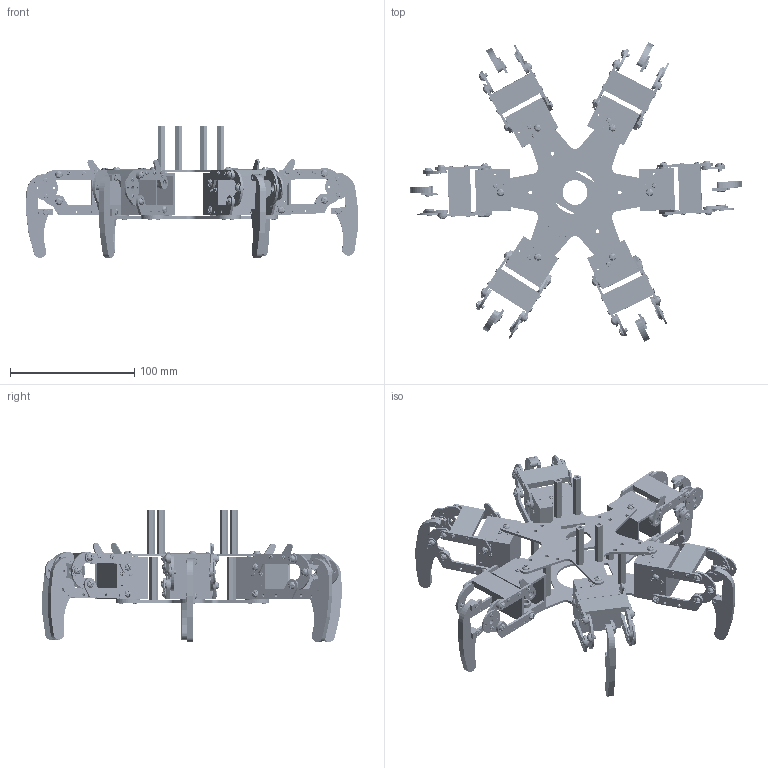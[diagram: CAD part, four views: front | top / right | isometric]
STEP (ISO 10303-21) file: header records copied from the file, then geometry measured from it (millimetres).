
FILE_DESCRIPTION((''),'2;1');
FILE_NAME('C:\Users\wd_chen\Desktop\solidworks\6蜘蛛.stp','2012-03-01T13:03:14',('wd_chen'),(''),'Autodesk Inventor 2009','Autodesk Inventor 2009','');
FILE_SCHEMA(('AUTOMOTIVE_DESIGN { 1 0 10303 214 1 1 1 1 }'));
Length unit declared in the file: millimetre
Products named in the file (23): 6蜘蛛; 4; 組合1; 交直軸蜘蛛; 2; 5; 7; 1; 1-2; f; M3X5; M3X7; M3OO; M2X4; EEEEE; M2; DDDD; GGGG; 組合1_MIR; 交直軸蜘蛛_MIR; 10
Assembly tree (126 placements, depth 3):
  6蜘蛛
    4
    組合1  x3
      交直軸蜘蛛
      2
      2
      5
      7
      1
      1-2
      f
      M3X5
      M3X7
      M3OO
      M2X4
      EEEEE
      M2
      DDDD
      GGGG
    組合1_MIR  x3
      交直軸蜘蛛_MIR
      2
      5
      7
      2
      1
      1-2
      f
      M2X4
      M3OO
      M3X5
      M3X7
      EEEEE
      M2
      DDDD
      GGGG
    4
    7  x6
    10  x8
    M2X4  x12
Bounding box: 267.28 x 241.15 x 106.16 mm (x, y, z)
Volume: 163728.8 mm3; surface area: 188574.2 mm2
Topology: 304 solids, 304 shells, 4496 faces, 11022 edges, 7368 vertices
Faces by surface type: plane 2960, cylinder 1014, torus 384, bspline 138
Full cylindrical faces by diameter (mm): 1.4 x24, 2 x156, 2.2 x60, 2.5 x66, 3 x82, 3.06 x48, 3.5 x84, 3.65 x48, 3.77 x6, 3.78 x42, 4 x12, 4.4 x6, 4.486 x6, 4.55 x6, 5 x12, 5.665 x12, 6.13 x6, 6.15 x6, 6.387 x6, 7 x48, 7.12 x6, 8 x30, 20 x13, 35 x1
Entity records: 14438 total; most frequent: CARTESIAN_POINT 3228, DIRECTION 2289, ORIENTED_EDGE 1806, AXIS2_PLACEMENT_3D 917, EDGE_CURVE 903, EDGE_LOOP 731, VERTEX_POINT 678, VECTOR 455
